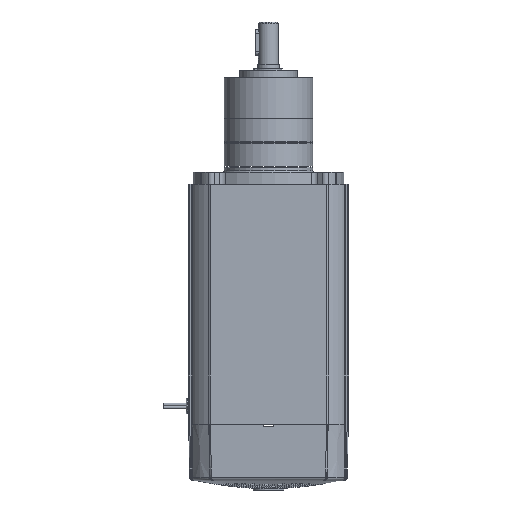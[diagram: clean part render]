
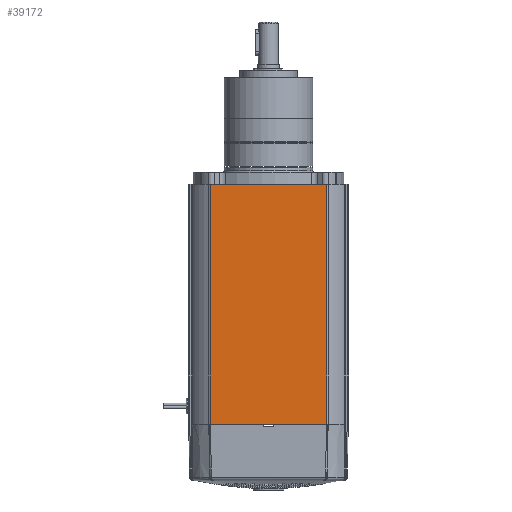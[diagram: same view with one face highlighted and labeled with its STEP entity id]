
A CAD part, left-side view. The second image highlights one B-rep face of the part: STEP entity #39172.
In plain terms, the highlighted planar face has unit normal (-1, 0, 0).
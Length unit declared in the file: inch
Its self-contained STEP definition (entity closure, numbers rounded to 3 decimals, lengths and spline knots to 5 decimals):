
#1206 = EDGE_CURVE ( 'NONE', #51101, #56081, #45112, .T. ) ;
#3740 = CARTESIAN_POINT ( 'NONE',  ( -2.21, 1.61, -6.791 ) ) ;
#5060 = VECTOR ( 'NONE', #15907, 39.37008 ) ;
#7837 = DIRECTION ( 'NONE',  ( 0., 1., 0. ) ) ;
#9370 = LINE ( 'NONE', #33716, #55151 ) ;
#10022 = CARTESIAN_POINT ( 'NONE',  ( -2.21, 1.61, -6.614 ) ) ;
#12961 = LINE ( 'NONE', #3740, #35088 ) ;
#14436 = CARTESIAN_POINT ( 'NONE',  ( -2.21, -1.61, -6.614 ) ) ;
#15246 = CARTESIAN_POINT ( 'NONE',  ( -2.21, -1.64, -6.791 ) ) ;
#15437 = ORIENTED_EDGE ( 'NONE', *, *, #51563, .F. ) ;
#15730 = CARTESIAN_POINT ( 'NONE',  ( -2.21, -1.61, -6.791 ) ) ;
#15907 = DIRECTION ( 'NONE',  ( 0., 0., 1. ) ) ;
#16830 = LINE ( 'NONE', #15730, #5060 ) ;
#19629 = DIRECTION ( 'NONE',  ( 0., 0., 1. ) ) ;
#20068 = EDGE_LOOP ( 'NONE', ( #26918, #15437, #32223, #29929 ) ) ;
#23874 = PLANE ( 'NONE',  #40537 ) ;
#26660 = VERTEX_POINT ( 'NONE', #10022 ) ;
#26918 = ORIENTED_EDGE ( 'NONE', *, *, #44001, .T. ) ;
#29929 = ORIENTED_EDGE ( 'NONE', *, *, #1206, .F. ) ;
#32223 = ORIENTED_EDGE ( 'NONE', *, *, #55659, .T. ) ;
#33282 = VECTOR ( 'NONE', #48768, 39.37008 ) ;
#33716 = CARTESIAN_POINT ( 'NONE',  ( -2.21, 1.61, -6.614 ) ) ;
#35088 = VECTOR ( 'NONE', #48068, 39.37008 ) ;
#37293 = CARTESIAN_POINT ( 'NONE',  ( -2.21, -1.61, 0. ) ) ;
#37392 = VERTEX_POINT ( 'NONE', #14436 ) ;
#38212 = CARTESIAN_POINT ( 'NONE',  ( -2.21, 1.61, 0. ) ) ;
#39172 = ADVANCED_FACE ( 'NONE', ( #51315 ), #23874, .T. ) ;
#40537 = AXIS2_PLACEMENT_3D ( 'NONE', #15246, #46210, #19629 ) ;
#44001 = EDGE_CURVE ( 'NONE', #51101, #26660, #12961, .T. ) ;
#45112 = LINE ( 'NONE', #49011, #33282 ) ;
#46210 = DIRECTION ( 'NONE',  ( -1., 0., 0. ) ) ;
#48068 = DIRECTION ( 'NONE',  ( 0., 0., -1. ) ) ;
#48768 = DIRECTION ( 'NONE',  ( 0., -1., 0. ) ) ;
#49011 = CARTESIAN_POINT ( 'NONE',  ( -2.21, -1.64, 0. ) ) ;
#51101 = VERTEX_POINT ( 'NONE', #38212 ) ;
#51315 = FACE_OUTER_BOUND ( 'NONE', #20068, .T. ) ;
#51563 = EDGE_CURVE ( 'NONE', #37392, #26660, #9370, .T. ) ;
#55151 = VECTOR ( 'NONE', #7837, 39.37008 ) ;
#55659 = EDGE_CURVE ( 'NONE', #37392, #56081, #16830, .T. ) ;
#56081 = VERTEX_POINT ( 'NONE', #37293 ) ;
